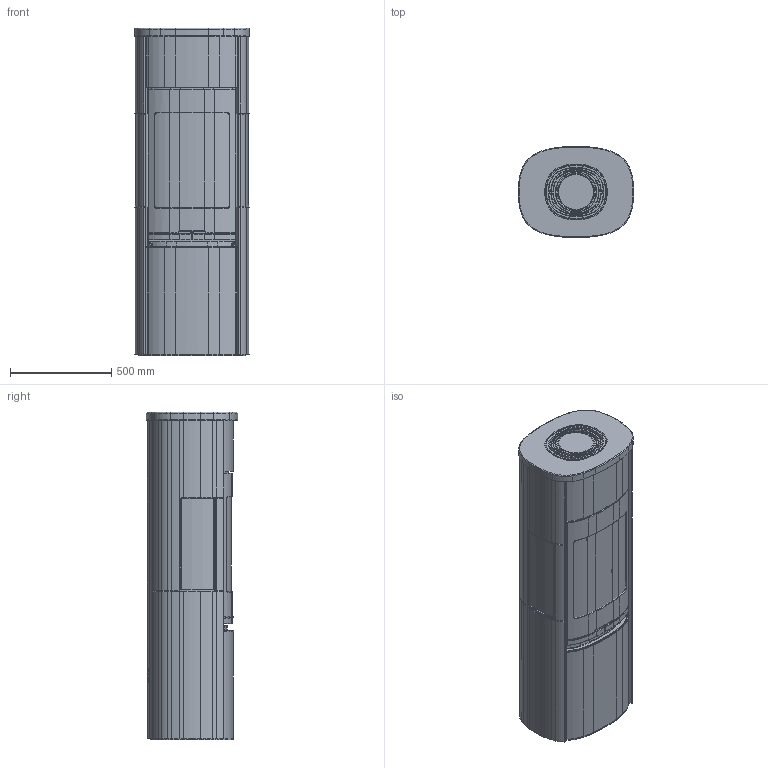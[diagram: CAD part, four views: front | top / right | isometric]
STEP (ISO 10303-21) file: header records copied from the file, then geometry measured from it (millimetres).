
FILE_DESCRIPTION(/* description */ ('Unknown'),/* implementation_level */ '2;1');
FILE_NAME(/* name */ 'DSN1111666_0_asm',/* time_stamp */ '2025-03-03T08:06:07+01:00',/* author */ ('Unknown'),/* organization */ ('NIBE AB'),/* preprocessor_version */ 'ST-DEVELOPER v18.102',/* originating_system */ 'Solid Edge',/* authorisation */ 'Unknown');
FILE_SCHEMA (('CONFIG_CONTROL_DESIGN'));
Products named in the file (14): DSN1111666; DSN1111629; DSN1111656; DSN1110955; DSN1111481; DSN1111509; DSN1111619; DSN1111155; DSN1111115; DSN1111641; DSN1111667; DSN1110998; DSN1111454; DSN1111618
Assembly tree (15 placements, depth 2):
  DSN1111666
    DSN1111629
    DSN1111656
    DSN1110955
    DSN1111481  x2
    DSN1111509  x2
    DSN1111619
    DSN1111155
    DSN1111115
    DSN1111641
    DSN1111667
    DSN1110998
    DSN1111454
    DSN1111618
Bounding box: 571.53 x 451.02 x 1620 mm (x, y, z)
Volume: 287276679.7 mm3; surface area: 12210630.1 mm2
Topology: 15 solids, 15 shells, 1796 faces, 4583 edges, 2841 vertices
Faces by surface type: plane 512, cylinder 490, bspline 371, torus 211, cone 190, sphere 22
Full cylindrical faces by diameter (mm): 5 x5, 176.4 x1, 180.592 x1, 213.2 x1
Entity records: 86675 total; most frequent: CARTESIAN_POINT 40848, ORIENTED_EDGE 8990, DIRECTION 8160, EDGE_CURVE 4495, AXIS2_PLACEMENT_3D 3197, VERTEX_POINT 2811, FACE_BOUND 1880, EDGE_LOOP 1879
